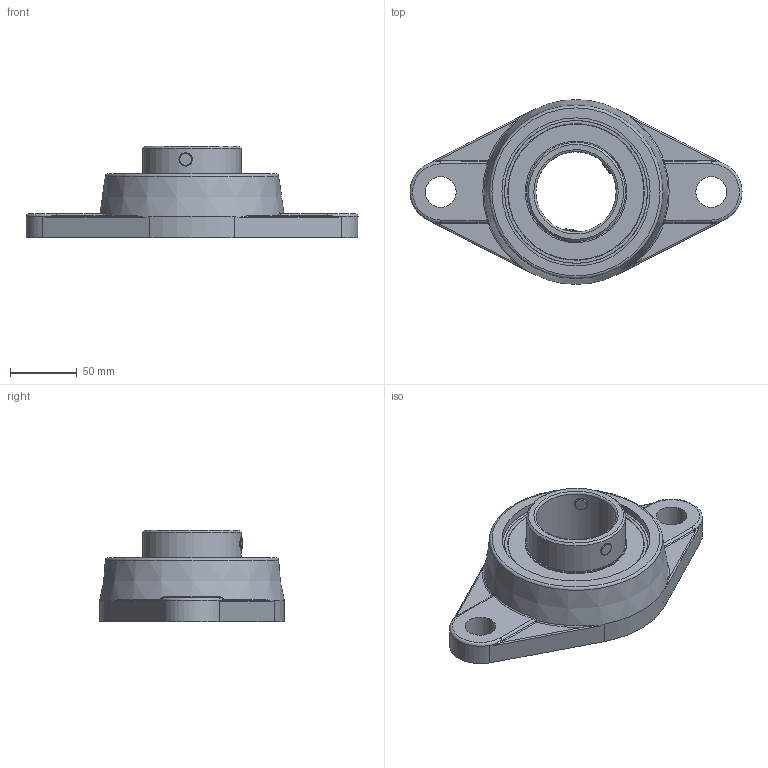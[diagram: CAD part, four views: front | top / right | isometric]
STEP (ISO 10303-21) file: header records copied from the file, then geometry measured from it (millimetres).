
FILE_DESCRIPTION(/* description */ (''),/* implementation_level */ '2;1');
FILE_NAME(/* name */ 'C:\MOJE SUBORY\03_Doplnenie 3D modelov\fmc\FMC212.stp',/* time_stamp */ '2020-12-15T09:32:53+01:00',/* author */ ('OUPIONTEKM'),/* organization */ (''),/* preprocessor_version */ 'ST-DEVELOPER v18.1',/* originating_system */ 'Autodesk Inventor 2021',/* authorisation */ '');
FILE_SCHEMA (('AUTOMOTIVE_DESIGN { 1 0 10303 214 3 1 1 }'));
Length unit declared in the file: millimetre
Products named in the file (10): FMC205; FM212; UC212; UC212-02; UC212-ball; UC212-01; UC212-cage; UC212-seal; M10X9; UC212-shield
Assembly tree (20 placements, depth 3):
  FMC205
    FM212
    UC212
      UC212-02
      UC212-ball  x8
      UC212-01
      UC212-cage  x2
      UC212-seal  x2
      M10X9  x2
      UC212-shield  x2
Bounding box: 247.96 x 138 x 68.7 mm (x, y, z)
Volume: 509238.4 mm3; surface area: 167047.3 mm2
Topology: 19 solids, 19 shells, 220 faces, 662 edges, 422 vertices
Faces by surface type: plane 77, cylinder 51, sphere 47, bspline 20, torus 17, cone 8
Full cylindrical faces by diameter (mm): 2 x2, 10 x4, 23 x2, 60 x1, 73.888 x6, 75.888 x2, 80.237 x2, 89.763 x2, 96.112 x2, 101.513 x2, 102.112 x4, 110.635 x1, 112.162 x1
Entity records: 7469 total; most frequent: CARTESIAN_POINT 2871, DIRECTION 953, ORIENTED_EDGE 882, EDGE_CURVE 441, AXIS2_PLACEMENT_3D 436, VERTEX_POINT 294, CIRCLE 258, EDGE_LOOP 189
